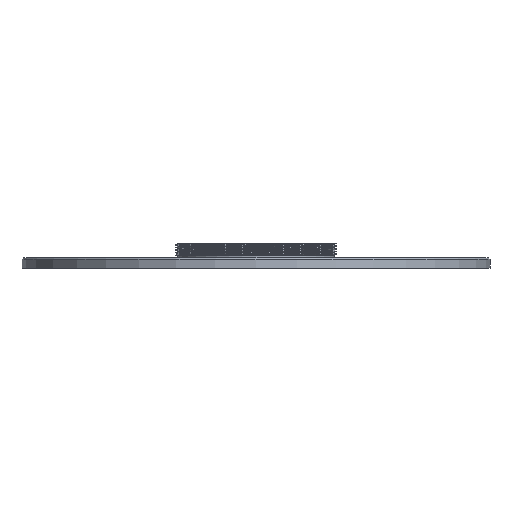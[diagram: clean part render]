
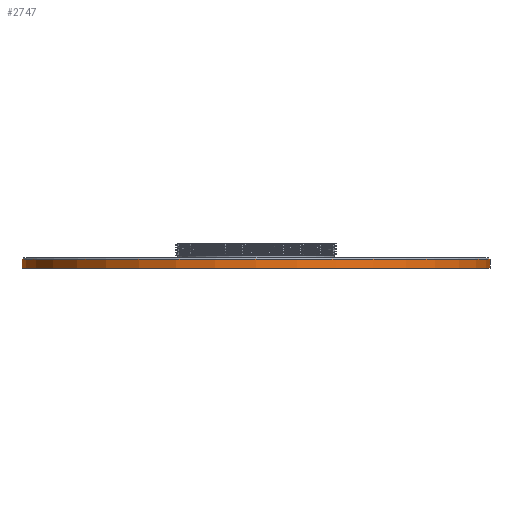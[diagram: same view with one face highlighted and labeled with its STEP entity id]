
A CAD part, front view. The second image highlights one B-rep face of the part: STEP entity #2747.
In plain terms, the highlighted cylindrical face has radius 67 mm (diameter 134 mm), a partial arc.
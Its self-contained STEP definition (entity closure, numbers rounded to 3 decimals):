
#5 = CIRCLE ( 'NONE', #2014, 67. ) ;
#56 = LINE ( 'NONE', #957, #2191 ) ;
#130 = ORIENTED_EDGE ( 'NONE', *, *, #471, .T. ) ;
#221 = DIRECTION ( 'NONE',  ( 1., 0., 0. ) ) ;
#266 = VERTEX_POINT ( 'NONE', #1629 ) ;
#285 = CIRCLE ( 'NONE', #2068, 67. ) ;
#297 = VERTEX_POINT ( 'NONE', #1390 ) ;
#471 = EDGE_CURVE ( 'NONE', #993, #1904, #56, .T. ) ;
#660 = ORIENTED_EDGE ( 'NONE', *, *, #2907, .T. ) ;
#734 = CARTESIAN_POINT ( 'NONE',  ( -67., 0., 0. ) ) ;
#842 = DIRECTION ( 'NONE',  ( 0., 0., 1. ) ) ;
#863 = DIRECTION ( 'NONE',  ( 1., 0., 0. ) ) ;
#957 = CARTESIAN_POINT ( 'NONE',  ( -67., 0., 3. ) ) ;
#993 = VERTEX_POINT ( 'NONE', #1326 ) ;
#1074 = DIRECTION ( 'NONE',  ( -1., 0., 0. ) ) ;
#1091 = EDGE_CURVE ( 'NONE', #297, #266, #2473, .T. ) ;
#1187 = DIRECTION ( 'NONE',  ( 0., 0., -1. ) ) ;
#1293 = CYLINDRICAL_SURFACE ( 'NONE', #2050, 67. ) ;
#1326 = CARTESIAN_POINT ( 'NONE',  ( -67., 0., 2.5 ) ) ;
#1332 = CARTESIAN_POINT ( 'NONE',  ( 0., 0., 3. ) ) ;
#1390 = CARTESIAN_POINT ( 'NONE',  ( 67., 0., 2.5 ) ) ;
#1410 = CARTESIAN_POINT ( 'NONE',  ( 67., 0., 3. ) ) ;
#1629 = CARTESIAN_POINT ( 'NONE',  ( 67., 0., 0. ) ) ;
#1762 = ORIENTED_EDGE ( 'NONE', *, *, #1091, .F. ) ;
#1821 = DIRECTION ( 'NONE',  ( 0., 0., -1. ) ) ;
#1904 = VERTEX_POINT ( 'NONE', #734 ) ;
#1993 = FACE_OUTER_BOUND ( 'NONE', #2162, .T. ) ;
#2014 = AXIS2_PLACEMENT_3D ( 'NONE', #2254, #842, #863 ) ;
#2050 = AXIS2_PLACEMENT_3D ( 'NONE', #1332, #1821, #1074 ) ;
#2068 = AXIS2_PLACEMENT_3D ( 'NONE', #2767, #2557, #221 ) ;
#2162 = EDGE_LOOP ( 'NONE', ( #1762, #660, #130, #2914 ) ) ;
#2191 = VECTOR ( 'NONE', #2342, 1000. ) ;
#2254 = CARTESIAN_POINT ( 'NONE',  ( 0., 0., 0. ) ) ;
#2342 = DIRECTION ( 'NONE',  ( 0., 0., -1. ) ) ;
#2473 = LINE ( 'NONE', #1410, #2583 ) ;
#2557 = DIRECTION ( 'NONE',  ( 0., 0., -1. ) ) ;
#2583 = VECTOR ( 'NONE', #1187, 1000. ) ;
#2630 = EDGE_CURVE ( 'NONE', #1904, #266, #5, .T. ) ;
#2747 = ADVANCED_FACE ( 'NONE', ( #1993 ), #1293, .T. ) ;
#2767 = CARTESIAN_POINT ( 'NONE',  ( 0., 0., 2.5 ) ) ;
#2907 = EDGE_CURVE ( 'NONE', #297, #993, #285, .T. ) ;
#2914 = ORIENTED_EDGE ( 'NONE', *, *, #2630, .T. ) ;
